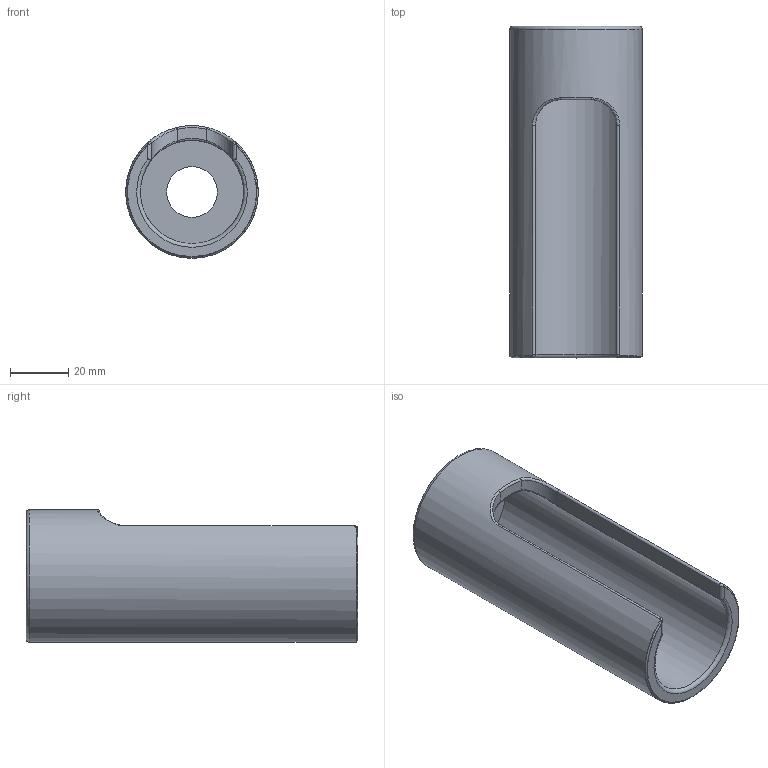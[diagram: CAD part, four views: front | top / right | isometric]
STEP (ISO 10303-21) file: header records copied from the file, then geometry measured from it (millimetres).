
FILE_DESCRIPTION(/* description */ (''),/* implementation_level */ '2;1');
FILE_NAME(/* name */ 'Modeled Plateless Cylinder Housing.step',/* time_stamp */ '2026-05-22T17:07:36-04:00',/* author */ (''),/* organization */ (''),/* preprocessor_version */ 'ST-DEVELOPER v20.1',/* originating_system */ 'Autodesk Translation Framework v15.8.0.0',/* authorisation */ '');
FILE_SCHEMA (('AUTOMOTIVE_DESIGN { 1 0 10303 214 3 1 1 }'));
Length unit declared in the file: inch
Products named in the file (1): Modeled Plateless Cylinder Housing
Bounding box: 45.72 x 114.3 x 45.72 mm (x, y, z)
Volume: 64053.2 mm3; surface area: 27065.9 mm2
Topology: 1 solids, 1 shells, 32 faces, 73 edges, 41 vertices
Faces by surface type: cylinder 11, bspline 8, torus 6, plane 6, cone 1
Full cylindrical faces by diameter (mm): 17.462 x1, 35.56 x1, 45.72 x1
Entity records: 1400 total; most frequent: CARTESIAN_POINT 682, ORIENTED_EDGE 142, DIRECTION 137, EDGE_CURVE 71, AXIS2_PLACEMENT_3D 59, VERTEX_POINT 41, EDGE_LOOP 34, CIRCLE 34
